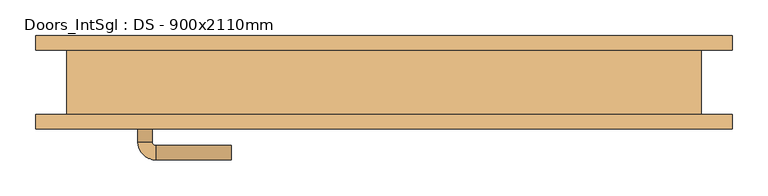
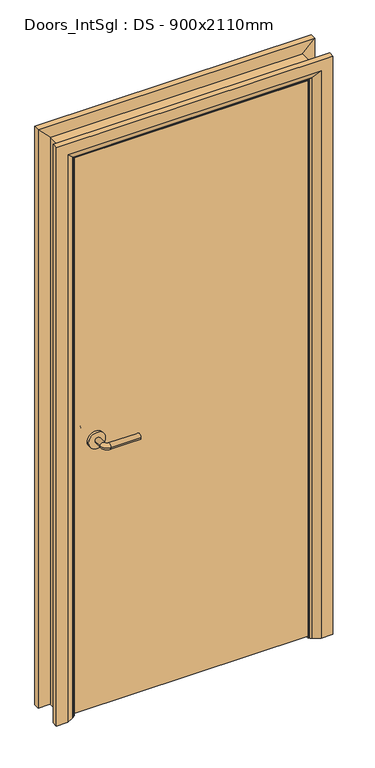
"""IFC4 building model written with IfcOpenShell, lengths in millimetres: door geometry, Doors_IntSgl : DS - 900x2110mm."""

from ifc_helpers import new_model, si_unit, point, frame, frame_2d, origin, place, context, project, spatial, polyline, circle_curve, ellipse_curve, trimmed, segment, composite_curve, outline, extrude, faceted_brep, source, transform, mapped, element, save
from ifc_brep_helpers import plane_surface, cylinder_surface, revolved_surface, advanced_brep


def doors_intsgl_ds_900x2110mm_836c2f7c(model_context):
    return source(origin(), model_context, "Body", "SolidModel", [
        advanced_brep(
        [(-343.0, 1.0, 1000.0), (-323.0, 1.0, 1000.0), (-343.0, 31.0, 1000.0), (-323.0, 31.0, 1000.0), (-318.0, 36.0, 1000.0), (-318.0, 56.0, 1000.0), (-213.0, 56.0, 1000.0), (-213.0, 36.0, 1000.0)],
        [
            (0, 1, circle_curve(frame((-333.0, 1.0, 1000.0), z_axis=(0.0, -1.0, 0.0), x_axis=(1.0, 0.0, 0.0)), 10.0)),
            (1, 0, circle_curve(frame((-333.0, 1.0, 1000.0), z_axis=(0.0, -1.0, 0.0), x_axis=(1.0, 0.0, 0.0)), 10.0)),
            (0, 2),
            (2, 3, circle_curve(frame((-333.0, 31.0, 1000.0), z_axis=(0.0, -1.0, 0.0), x_axis=(1.0, 0.0, 0.0)), 10.0)),
            (3, 1),
            (3, 2, circle_curve(frame((-333.0, 31.0, 1000.0), z_axis=(0.0, -1.0, 0.0), x_axis=(1.0, 0.0, 0.0)), 10.0)),
            (4, 3, circle_curve(frame((-318.0, 31.0, 1000.0), z_axis=(0.0, 0.0, 1.0), x_axis=(-1.0, 0.0, 0.0)), 5.0)),
            (2, 5, circle_curve(frame((-318.0, 31.0, 1000.0), z_axis=(0.0, 0.0, -1.0), x_axis=(-1.0, 0.0, 0.0)), 25.0)),
            (5, 4, circle_curve(frame((-318.0, 46.0, 1000.0), z_axis=(-1.0, 0.0, 0.0), x_axis=(0.0, -1.0, 0.0)), 10.0)),
            (4, 5, circle_curve(frame((-318.0, 46.0, 1000.0), z_axis=(-1.0, 0.0, 0.0), x_axis=(0.0, -1.0, 0.0)), 10.0)),
            (6, 7, circle_curve(frame((-213.0, 46.0, 1000.0), z_axis=(1.0, 0.0, 0.0), x_axis=(0.0, -1.0, 0.0)), 10.0)),
            (7, 6, circle_curve(frame((-213.0, 46.0, 1000.0), z_axis=(1.0, 0.0, 0.0), x_axis=(0.0, -1.0, 0.0)), 10.0)),
            (5, 6),
            (7, 4),
        ],
        [
            plane_surface(frame((-333.0, 1.0, 1000.0), z_axis=(0.0, -1.0, 0.0), x_axis=(0.0, 0.0, 1.0))),
            cylinder_surface(frame((-333.0, 1.0, 1000.0), z_axis=(0.0, -1.0, 0.0), x_axis=(1.0, 0.0, 0.0)), 10.0),
            revolved_surface(trimmed(ellipse_curve(frame((-333.0, 31.0, 1000.0), z_axis=(0.0, -1.0, 0.0), x_axis=(1.0, 0.0, 0.0)), 10.0, 10.0), [point((-343.0, 31.0, 1000.0))], [point((-323.0, 31.0, 1000.0))], True, "CARTESIAN"), (-318.0, 31.0, 1000.0), (0.0, 0.0, -1.0)),
            revolved_surface(trimmed(ellipse_curve(frame((-333.0, 31.0, 1000.0), z_axis=(0.0, -1.0, 0.0), x_axis=(1.0, 0.0, 0.0)), 10.0, 10.0), [point((-323.0, 31.0, 1000.0))], [point((-343.0, 31.0, 1000.0))], True, "CARTESIAN"), (-318.0, 31.0, 1000.0), (0.0, 0.0, -1.0)),
            plane_surface(frame((-213.0, 46.0, 1000.0), z_axis=(1.0, 0.0, 0.0), x_axis=(0.0, 0.0, 1.0))),
            cylinder_surface(frame((-318.0, 46.0, 1000.0), z_axis=(-1.0, 0.0, 0.0), x_axis=(0.0, -1.0, 0.0)), 10.0),
        ],
        [
            (0, [[1, 2]]),
            (1, [[-1, 3, 4, 5]]),
            (1, [[-2, -5, 6, -3]]),
            (2, [[7, -4, 8, 9]]),
            (3, [[-8, -6, -7, 10]]),
            (4, [[11, 12]]),
            (5, [[-9, 13, -12, 14]]),
            (5, [[-10, -14, -11, -13]]),
        ],
    ),
        extrude(outline(composite_curve([segment(trimmed(circle_curve(frame_2d((1000.0, -335.5)), 30.0), [point((1000.0, -365.5))], [point((1000.0, -305.5))], False, "CARTESIAN"), True, "CONTINUOUS"), segment(trimmed(circle_curve(frame_2d((1000.0, -335.5)), 30.0), [point((1000.0, -305.5))], [point((1000.0, -365.5))], False, "CARTESIAN"), True, "CONTINUOUS")], self_intersect=False)), frame((0.0, -7.0, 0.0), z_axis=(0.0, 1.0, 0.0), x_axis=(0.0, 0.0, 1.0)), (0.0, 0.0, 1.0), 8.0),
        advanced_brep(
        [(-343.0, -53.0, 1000.0), (-323.0, -53.0, 1000.0), (-323.0, -83.0, 1000.0), (-343.0, -83.0, 1000.0), (-318.0, -88.0, 1000.0), (-318.0, -108.0, 1000.0), (-213.0, -108.0, 1000.0), (-213.0, -88.0, 1000.0)],
        [
            (0, 1, circle_curve(frame((-333.0, -53.0, 1000.0), z_axis=(0.0, 1.0, 0.0), x_axis=(1.0, 0.0, 0.0)), 10.0)),
            (1, 0, circle_curve(frame((-333.0, -53.0, 1000.0), z_axis=(0.0, 1.0, 0.0), x_axis=(1.0, 0.0, 0.0)), 10.0)),
            (1, 2),
            (2, 3, circle_curve(frame((-333.0, -83.0, 1000.0), z_axis=(0.0, 1.0, 0.0), x_axis=(1.0, 0.0, 0.0)), 10.0)),
            (3, 0),
            (3, 2, circle_curve(frame((-333.0, -83.0, 1000.0), z_axis=(0.0, 1.0, 0.0), x_axis=(1.0, 0.0, 0.0)), 10.0)),
            (4, 5, circle_curve(frame((-318.0, -98.0, 1000.0), z_axis=(-1.0, 0.0, 0.0), x_axis=(0.0, 1.0, 0.0)), 10.0)),
            (5, 3, circle_curve(frame((-318.0, -83.0, 1000.0), z_axis=(0.0, 0.0, -1.0), x_axis=(-1.0, 0.0, 0.0)), 25.0)),
            (2, 4, circle_curve(frame((-318.0, -83.0, 1000.0), z_axis=(0.0, 0.0, 1.0), x_axis=(-1.0, 0.0, 0.0)), 5.0)),
            (5, 4, circle_curve(frame((-318.0, -98.0, 1000.0), z_axis=(-1.0, 0.0, 0.0), x_axis=(0.0, 1.0, 0.0)), 10.0)),
            (6, 7, circle_curve(frame((-213.0, -98.0, 1000.0), z_axis=(1.0, 0.0, 0.0), x_axis=(0.0, 1.0, 0.0)), 10.0)),
            (7, 6, circle_curve(frame((-213.0, -98.0, 1000.0), z_axis=(1.0, 0.0, 0.0), x_axis=(0.0, 1.0, 0.0)), 10.0)),
            (4, 7),
            (6, 5),
        ],
        [
            plane_surface(frame((-333.0, -53.0, 1000.0), z_axis=(0.0, 1.0, 0.0), x_axis=(0.0, 0.0, 1.0))),
            cylinder_surface(frame((-333.0, -53.0, 1000.0), z_axis=(0.0, 1.0, 0.0), x_axis=(1.0, 0.0, 0.0)), 10.0),
            revolved_surface(trimmed(ellipse_curve(frame((-333.0, -83.0, 1000.0), z_axis=(0.0, -1.0, 0.0), x_axis=(1.0, 0.0, 0.0)), 10.0, 10.0), [point((-343.0, -83.0, 1000.0))], [point((-323.0, -83.0, 1000.0))], True, "CARTESIAN"), (-318.0, -83.0, 1000.0), (0.0, 0.0, -1.0)),
            revolved_surface(trimmed(ellipse_curve(frame((-333.0, -83.0, 1000.0), z_axis=(0.0, -1.0, 0.0), x_axis=(1.0, 0.0, 0.0)), 10.0, 10.0), [point((-323.0, -83.0, 1000.0))], [point((-343.0, -83.0, 1000.0))], True, "CARTESIAN"), (-318.0, -83.0, 1000.0), (0.0, 0.0, -1.0)),
            plane_surface(frame((-213.0, -98.0, 1000.0), z_axis=(1.0, 0.0, 0.0), x_axis=(0.0, 0.0, 1.0))),
            cylinder_surface(frame((-318.0, -98.0, 1000.0), z_axis=(-1.0, 0.0, 0.0), x_axis=(0.0, 1.0, 0.0)), 10.0),
        ],
        [
            (0, [[1, 2]]),
            (1, [[3, 4, 5, -2]]),
            (1, [[-5, 6, -3, -1]]),
            (2, [[7, 8, -4, 9]]),
            (3, [[10, -9, -6, -8]]),
            (4, [[11, 12]]),
            (5, [[13, -11, 14, -7]]),
            (5, [[-14, -12, -13, -10]]),
        ],
    ),
        extrude(outline(composite_curve([segment(trimmed(circle_curve(frame_2d((1000.0, -335.5)), 30.0), [point((1000.0, -365.5))], [point((1000.0, -305.5))], False, "CARTESIAN"), True, "CONTINUOUS"), segment(trimmed(circle_curve(frame_2d((1000.0, -335.5)), 30.0), [point((1000.0, -305.5))], [point((1000.0, -365.5))], False, "CARTESIAN"), True, "CONTINUOUS")], self_intersect=False)), frame((0.0, -53.0, 0.0), z_axis=(0.0, 1.0, 0.0), x_axis=(0.0, 0.0, 1.0)), (0.0, 0.0, 1.0), 8.0),
        extrude(outline(polyline([(408.0, -7.0), (408.0, -45.0), (-408.0, -45.0), (-408.0, -7.0), (408.0, -7.0)])), frame((0.0, 0.0, 8.0), z_axis=(0.0, 0.0, 1.0), x_axis=(1.0, 0.0, 0.0)), (0.0, 0.0, 1.0), 2060.0),
        advanced_brep(
        [(485.0, -65.0, 0.0), (445.0, -65.0, 0.0), (419.0, -51.0, 0.0), (415.0, -45.0, 0.0), (485.0, -45.0, 0.0), (485.0, -45.0, 2145.0), (485.0, -65.0, 2145.0), (415.0, -45.0, 2075.0), (-415.0, -45.0, 2075.0), (-415.0, -45.0, 0.0), (-485.0, -45.0, 0.0), (-485.0, -45.0, 2145.0), (419.0, -51.0, 2079.0), (445.0, -65.0, 2105.0), (-485.0, -65.0, 2145.0), (-485.0, -65.0, 0.0), (-445.0, -65.0, 0.0), (-445.0, -65.0, 2105.0), (-419.0, -51.0, 0.0), (-419.0, -51.0, 2079.0)],
        [
            (0, 1),
            (1, 2),
            (2, 3, circle_curve(frame((423.0, -44.0, 0.0), z_axis=(0.0, 0.0, -1.0), x_axis=(1.0, 0.0, 0.0)), 8.0622577)),
            (3, 4),
            (4, 0),
            (4, 5),
            (5, 6),
            (6, 0),
            (3, 7),
            (7, 8),
            (8, 9),
            (9, 10),
            (10, 11),
            (11, 5),
            (2, 12),
            (12, 7, ellipse_curve(frame((423.0, -44.0, 2083.0), z_axis=(0.7071067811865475, 0.0, -0.7071067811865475), x_axis=(-0.7071067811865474, 0.0, -0.7071067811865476)), 11.4017543, 8.0622577)),
            (1, 13),
            (13, 12),
            (6, 14),
            (14, 15),
            (15, 16),
            (16, 17),
            (17, 13),
            (10, 15),
            (14, 11),
            (9, 18, circle_curve(frame((-423.0, -44.0, 0.0), z_axis=(0.0, 0.0, -1.0), x_axis=(-1.0, 0.0, 0.0)), 8.0622577)),
            (18, 16),
            (19, 18),
            (8, 19, ellipse_curve(frame((-423.0, -44.0, 2083.0), z_axis=(-0.7071067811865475, 0.0, -0.7071067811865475), x_axis=(-0.7071067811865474, 0.0, 0.7071067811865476)), 11.4017543, 8.0622577)),
            (19, 17),
            (12, 19),
        ],
        [
            plane_surface(frame((415.0, -45.0, 0.0), z_axis=(0.0, 0.0, -1.0), x_axis=(0.0, 1.0, 0.0))),
            plane_surface(frame((485.0, -65.0, 0.0), z_axis=(1.0, 0.0, 0.0), x_axis=(0.0, 0.0, 1.0))),
            plane_surface(frame((485.0, -45.0, 0.0), z_axis=(0.0, 1.0, 0.0), x_axis=(0.0, 0.0, 1.0))),
            cylinder_surface(frame((423.0, -44.0, 0.0), z_axis=(0.0, 0.0, -1.0), x_axis=(1.0, 0.0, 0.0)), 8.0622577),
            plane_surface(frame((419.0, -51.0, 0.0), z_axis=(-0.4740998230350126, -0.880471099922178, 0.0), x_axis=(0.0, 0.0, 1.0))),
            plane_surface(frame((445.0, -65.0, 0.0), z_axis=(0.0, -1.0, 0.0), x_axis=(0.0, 0.0, 1.0))),
            plane_surface(frame((-485.0, -65.0, 2145.0), z_axis=(-1.0, 0.0, 0.0), x_axis=(0.0, 0.0, -1.0))),
            plane_surface(frame((-415.0, -45.0, 0.0), z_axis=(0.0, 0.0, -1.0), x_axis=(0.0, 1.0, 0.0))),
            cylinder_surface(frame((-423.0, -44.0, 2075.0), z_axis=(0.0, 0.0, 1.0), x_axis=(-1.0, 0.0, 0.0)), 8.0622577),
            plane_surface(frame((-419.0, -51.0, 2079.0), z_axis=(0.47409982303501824, -0.8804710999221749, 0.0), x_axis=(0.0, 0.0, -1.0))),
            plane_surface(frame((485.0, -65.0, 2145.0), z_axis=(0.0, 0.0, 1.0), x_axis=(-1.0, 0.0, 0.0))),
            cylinder_surface(frame((415.0, -44.0, 2083.0), z_axis=(1.0, 0.0, 0.0), x_axis=(0.0, 0.0, 1.0)), 8.0622577),
            plane_surface(frame((419.0, -51.0, 2079.0), z_axis=(0.0, -0.8804710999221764, -0.4740998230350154), x_axis=(-1.0, 0.0, 0.0))),
        ],
        [
            (0, [[1, 2, 3, 4, 5]]),
            (1, [[6, 7, 8, -5]]),
            (2, [[9, 10, 11, 12, 13, 14, -6, -4]]),
            (3, [[15, 16, -9, -3]]),
            (4, [[17, 18, -15, -2]]),
            (5, [[-8, 19, 20, 21, 22, 23, -17, -1]]),
            (6, [[-13, 24, -20, 25]]),
            (7, [[-24, -12, 26, 27, -21]]),
            (8, [[28, -26, -11, 29]]),
            (9, [[-22, -27, -28, 30]]),
            (10, [[-14, -25, -19, -7]]),
            (11, [[31, -29, -10, -16]]),
            (12, [[-23, -30, -31, -18]]),
        ],
    ),
        extrude(outline(polyline([(0.0, -391.0), (2051.0, -391.0), (2051.0, 391.0), (0.0, 391.0), (0.0, 410.0), (2070.0, 410.0), (2070.0, -410.0), (0.0, -410.0), (0.0, -391.0)])), frame((0.0, -5.0, 0.0), z_axis=(0.0, 1.0, 0.0), x_axis=(0.0, 0.0, 1.0)), (0.0, 0.0, 1.0), 32.0),
        advanced_brep(
        [(-485.0, 65.0, 0.0), (-445.0, 65.0, 0.0), (-419.0, 51.0, 0.0), (-415.0, 45.0, 0.0), (-485.0, 45.0, 0.0), (-485.0, 45.0, 2145.0), (-485.0, 65.0, 2145.0), (-415.0, 45.0, 2075.0), (-419.0, 51.0, 2079.0), (-445.0, 65.0, 2105.0), (485.0, 65.0, 0.0), (485.0, 45.0, 0.0), (415.0, 45.0, 0.0), (419.0, 51.0, 0.0), (445.0, 65.0, 0.0), (485.0, 65.0, 2145.0), (445.0, 65.0, 2105.0), (419.0, 51.0, 2079.0), (415.0, 45.0, 2075.0), (485.0, 45.0, 2145.0)],
        [
            (0, 1),
            (1, 2),
            (2, 3, circle_curve(frame((-423.0, 44.0, 0.0), z_axis=(0.0, 0.0, -1.0), x_axis=(-1.0, 0.0, 0.0)), 8.0622577)),
            (3, 4),
            (4, 0),
            (4, 5),
            (5, 6),
            (6, 0),
            (3, 7),
            (7, 5),
            (2, 8),
            (8, 7, ellipse_curve(frame((-423.0, 44.0, 2083.0), z_axis=(-0.7071067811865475, 0.0, -0.7071067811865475), x_axis=(0.7071067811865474, 0.0, -0.7071067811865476)), 11.4017543, 8.0622577)),
            (1, 9),
            (9, 8),
            (6, 9),
            (10, 11),
            (11, 12),
            (12, 13, circle_curve(frame((423.0, 44.0, 0.0), z_axis=(0.0, 0.0, -1.0), x_axis=(1.0, 0.0, 0.0)), 8.0622577)),
            (13, 14),
            (14, 10),
            (15, 10),
            (14, 16),
            (16, 15),
            (13, 17),
            (17, 16),
            (12, 18),
            (18, 17, ellipse_curve(frame((423.0, 44.0, 2083.0), z_axis=(0.7071067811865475, 0.0, -0.7071067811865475), x_axis=(0.7071067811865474, 0.0, 0.7071067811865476)), 11.4017543, 8.0622577)),
            (11, 19),
            (19, 18),
            (15, 19),
            (5, 19),
            (15, 6),
            (7, 18),
            (8, 17),
            (9, 16),
        ],
        [
            plane_surface(frame((-415.0, 117.8010989, 0.0), z_axis=(0.0, 0.0, -1.0), x_axis=(1.0, 0.0, 0.0))),
            plane_surface(frame((-485.0, 65.0, 0.0), z_axis=(-1.0, 0.0, 0.0), x_axis=(0.0, 0.0, 1.0))),
            plane_surface(frame((-485.0, 45.0, 0.0), z_axis=(0.0, -1.0, 0.0), x_axis=(0.0, 0.0, 1.0))),
            cylinder_surface(frame((-423.0, 44.0, 0.0), z_axis=(0.0, 0.0, -1.0), x_axis=(-1.0, 0.0, 0.0)), 8.0622577),
            plane_surface(frame((-419.0, 51.0, 0.0), z_axis=(0.4740998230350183, 0.8804710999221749, 0.0), x_axis=(0.0, 0.0, 1.0))),
            plane_surface(frame((-445.0, 65.0, 0.0), z_axis=(0.0, 1.0, 0.0), x_axis=(0.0, 0.0, 1.0))),
            plane_surface(frame((415.0, 117.8010989, 0.0), z_axis=(0.0, 0.0, -1.0), x_axis=(-1.0, 0.0, 0.0))),
            plane_surface(frame((445.0, 65.0, 2105.0), z_axis=(0.0, 1.0, 0.0), x_axis=(0.0, 0.0, -1.0))),
            plane_surface(frame((419.0, 51.0, 2079.0), z_axis=(-0.4740998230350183, 0.8804710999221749, 0.0), x_axis=(0.0, 0.0, -1.0))),
            cylinder_surface(frame((423.0, 44.0, 2075.0), z_axis=(0.0, 0.0, 1.0), x_axis=(1.0, 0.0, 0.0)), 8.0622577),
            plane_surface(frame((485.0, 45.0, 2145.0), z_axis=(0.0, -1.0, 0.0), x_axis=(0.0, 0.0, -1.0))),
            plane_surface(frame((485.0, 65.0, 2145.0), z_axis=(1.0, 0.0, 0.0), x_axis=(0.0, 0.0, -1.0))),
            plane_surface(frame((-485.0, 65.0, 2145.0), z_axis=(0.0, 0.0, 1.0), x_axis=(1.0, 0.0, 0.0))),
            plane_surface(frame((-485.0, 45.0, 2145.0), z_axis=(0.0, -1.0, 0.0), x_axis=(1.0, 0.0, 0.0))),
            cylinder_surface(frame((-415.0, 44.0, 2083.0), z_axis=(-1.0, 0.0, 0.0), x_axis=(0.0, 0.0, 1.0)), 8.0622577),
            plane_surface(frame((-419.0, 51.0, 2079.0), z_axis=(0.0, 0.8804710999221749, -0.4740998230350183), x_axis=(1.0, 0.0, 0.0))),
            plane_surface(frame((-445.0, 65.0, 2105.0), z_axis=(0.0, 1.0, 0.0), x_axis=(1.0, 0.0, 0.0))),
        ],
        [
            (0, [[1, 2, 3, 4, 5]]),
            (1, [[6, 7, 8, -5]]),
            (2, [[9, 10, -6, -4]]),
            (3, [[11, 12, -9, -3]]),
            (4, [[13, 14, -11, -2]]),
            (5, [[-8, 15, -13, -1]]),
            (6, [[16, 17, 18, 19, 20]]),
            (7, [[21, -20, 22, 23]]),
            (8, [[-22, -19, 24, 25]]),
            (9, [[-24, -18, 26, 27]]),
            (10, [[-26, -17, 28, 29]]),
            (11, [[-28, -16, -21, 30]]),
            (12, [[31, -30, 32, -7]]),
            (13, [[33, -29, -31, -10]]),
            (14, [[34, -27, -33, -12]]),
            (15, [[35, -25, -34, -14]]),
            (16, [[-32, -23, -35, -15]]),
        ],
    ),
        faceted_brep([(-410.0, -45.0, 0.0), (-442.0, -45.0, 0.0), (-442.0, 45.0, 0.0), (-410.0, 45.0, 0.0), (-410.0, 45.0, 2070.0), (-410.0, -45.0, 2070.0), (-442.0, 45.0, 2102.0), (-442.0, -45.0, 2102.0), (410.0, -45.0, 0.0), (410.0, 45.0, 0.0), (442.0, 45.0, 0.0), (442.0, -45.0, 0.0), (410.0, -45.0, 2070.0), (442.0, -45.0, 2102.0), (442.0, 45.0, 2102.0), (410.0, 45.0, 2070.0)], [[[0, 1, 2, 3]], [[3, 4, 5, 0]], [[2, 6, 4, 3]], [[1, 7, 6, 2]], [[0, 5, 7, 1]], [[8, 9, 10, 11]], [[12, 8, 11, 13]], [[13, 11, 10, 14]], [[14, 10, 9, 15]], [[15, 9, 8, 12]], [[4, 15, 12, 5]], [[6, 14, 15, 4]], [[7, 13, 14, 6]], [[5, 12, 13, 7]]]),
    ])


if __name__ == "__main__":
    model = new_model("IFC4")
    model_context = context("Model", 3, world=origin())
    ifc_project = project(units=[si_unit("LENGTHUNIT", "METRE", prefix="MILLI")], contexts=[model_context])
    site = spatial("IfcSite", under=ifc_project)
    building = spatial("IfcBuilding", under=site)
    placement = place(None, origin())
    doors_intsgl_ds_900x2110mm_shape = doors_intsgl_ds_900x2110mm_836c2f7c(model_context)
    element("IfcDoor", 1, ObjectType="Doors_IntSgl : DS - 900x2110mm", at=placement, inside=building, context=model_context, shape_type="MappedRepresentation", body=[
        mapped(doors_intsgl_ds_900x2110mm_shape, transform((0.0, 0.0, 0.0), x_axis=(1.0, 0.0, 0.0), y_axis=(0.0, 1.0, 0.0), z_axis=(0.0, 0.0, 1.0))),
    ])
    save(model, "model.ifc")
